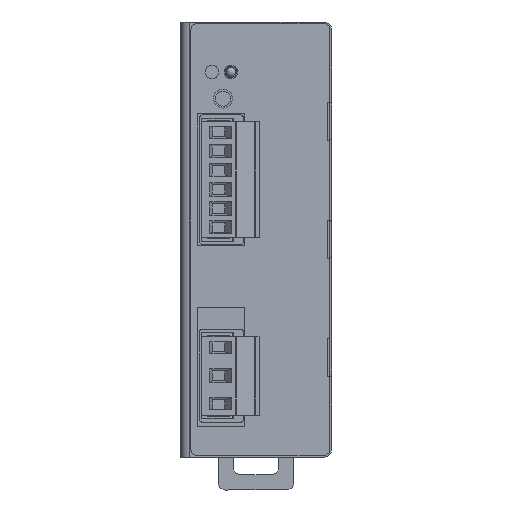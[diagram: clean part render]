
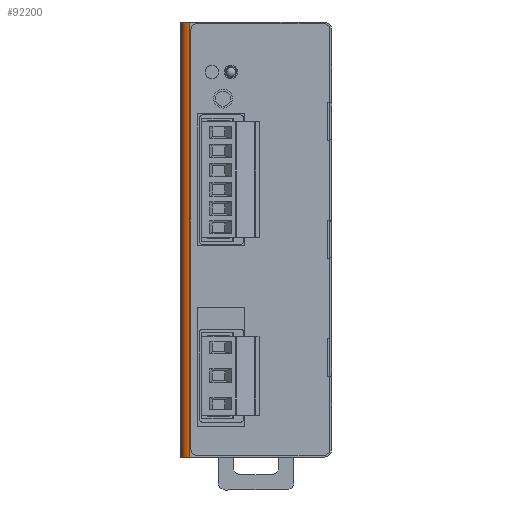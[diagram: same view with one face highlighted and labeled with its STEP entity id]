
A CAD part, left-side view. The second image highlights one B-rep face of the part: STEP entity #92200.
In plain terms, the highlighted cylindrical face has radius 2.5 mm (diameter 5 mm), a partial arc.
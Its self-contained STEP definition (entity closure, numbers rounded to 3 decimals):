
#7823 = DIRECTION ( 'NONE',  ( 0., 1., 0. ) ) ;
#8894 = CARTESIAN_POINT ( 'NONE',  ( -52.5, 20., -57.5 ) ) ;
#11157 = CARTESIAN_POINT ( 'NONE',  ( -52.5, 17.5, 57.5 ) ) ;
#18640 = DIRECTION ( 'NONE',  ( 0., 1., 0. ) ) ;
#24552 = LINE ( 'NONE', #43226, #82177 ) ;
#28787 = CARTESIAN_POINT ( 'NONE',  ( -52.5, 20., 57.5 ) ) ;
#34783 = DIRECTION ( 'NONE',  ( 0., 0., 1. ) ) ;
#35207 = ORIENTED_EDGE ( 'NONE', *, *, #80497, .T. ) ;
#36582 = VERTEX_POINT ( 'NONE', #43307 ) ;
#36787 = DIRECTION ( 'NONE',  ( 0., 0., 1. ) ) ;
#39642 = CIRCLE ( 'NONE', #96061, 2.5 ) ;
#40898 = ORIENTED_EDGE ( 'NONE', *, *, #90478, .T. ) ;
#42339 = FACE_OUTER_BOUND ( 'NONE', #88654, .T. ) ;
#43226 = CARTESIAN_POINT ( 'NONE',  ( -52.5, 20., 57.5 ) ) ;
#43307 = CARTESIAN_POINT ( 'NONE',  ( -55., 17.5, 57.5 ) ) ;
#43627 = CARTESIAN_POINT ( 'NONE',  ( -55., 17.5, -57.5 ) ) ;
#45021 = DIRECTION ( 'NONE',  ( 0., 0., -1. ) ) ;
#45262 = VERTEX_POINT ( 'NONE', #8894 ) ;
#46683 = LINE ( 'NONE', #87257, #86471 ) ;
#48534 = ORIENTED_EDGE ( 'NONE', *, *, #96605, .T. ) ;
#52798 = AXIS2_PLACEMENT_3D ( 'NONE', #75143, #45021, #7823 ) ;
#58484 = DIRECTION ( 'NONE',  ( 0., 0., -1. ) ) ;
#63662 = DIRECTION ( 'NONE',  ( 0., 0., 1. ) ) ;
#66124 = VERTEX_POINT ( 'NONE', #43627 ) ;
#70768 = AXIS2_PLACEMENT_3D ( 'NONE', #81688, #36787, #89161 ) ;
#74255 = ORIENTED_EDGE ( 'NONE', *, *, #76094, .F. ) ;
#75143 = CARTESIAN_POINT ( 'NONE',  ( -52.5, 17.5, 57.5 ) ) ;
#76094 = EDGE_CURVE ( 'NONE', #79391, #36582, #39642, .T. ) ;
#79391 = VERTEX_POINT ( 'NONE', #28787 ) ;
#80497 = EDGE_CURVE ( 'NONE', #45262, #66124, #88794, .T. ) ;
#81688 = CARTESIAN_POINT ( 'NONE',  ( -52.5, 17.5, -57.5 ) ) ;
#82177 = VECTOR ( 'NONE', #58484, 1000. ) ;
#86471 = VECTOR ( 'NONE', #34783, 1000. ) ;
#87257 = CARTESIAN_POINT ( 'NONE',  ( -55., 17.5, 57.5 ) ) ;
#88654 = EDGE_LOOP ( 'NONE', ( #74255, #48534, #35207, #40898 ) ) ;
#88794 = CIRCLE ( 'NONE', #70768, 2.5 ) ;
#89161 = DIRECTION ( 'NONE',  ( 0., 1., 0. ) ) ;
#90478 = EDGE_CURVE ( 'NONE', #66124, #36582, #46683, .T. ) ;
#92200 = ADVANCED_FACE ( 'NONE', ( #42339 ), #92523, .T. ) ;
#92523 = CYLINDRICAL_SURFACE ( 'NONE', #52798, 2.5 ) ;
#96061 = AXIS2_PLACEMENT_3D ( 'NONE', #11157, #63662, #18640 ) ;
#96605 = EDGE_CURVE ( 'NONE', #79391, #45262, #24552, .T. ) ;
